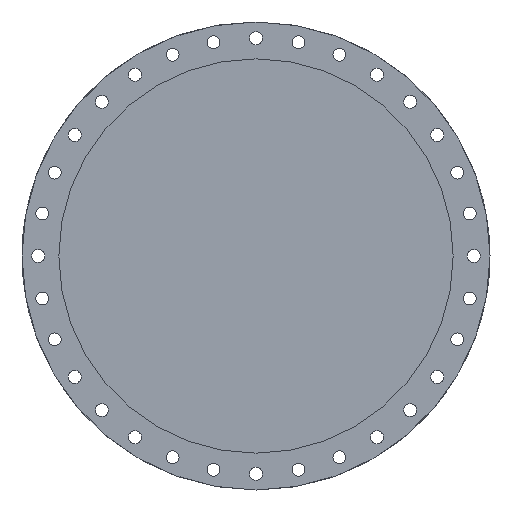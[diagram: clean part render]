
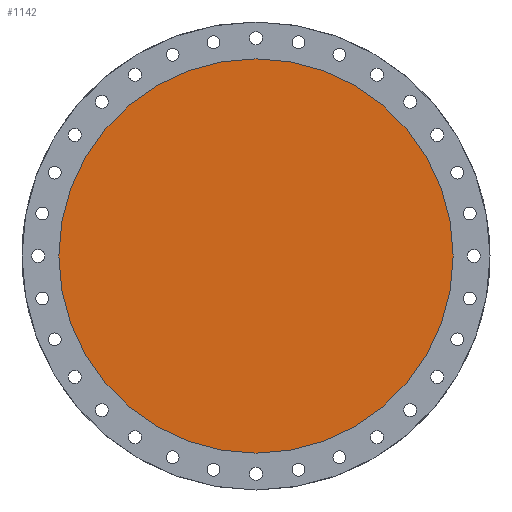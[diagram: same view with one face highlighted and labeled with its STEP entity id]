
A CAD part, front view. The second image highlights one B-rep face of the part: STEP entity #1142.
In plain terms, the highlighted planar face has unit normal (0, -1, 0).
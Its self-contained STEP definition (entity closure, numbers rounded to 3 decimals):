
#156 = DIRECTION ( 'NONE',  ( 0., -1., 0. ) ) ;
#190 = DIRECTION ( 'NONE',  ( 0., 0., 1. ) ) ;
#451 = ORIENTED_EDGE ( 'NONE', *, *, #3096, .T. ) ;
#503 = AXIS2_PLACEMENT_3D ( 'NONE', #1904, #3202, #190 ) ;
#814 = DIRECTION ( 'NONE',  ( 0., 1., 0. ) ) ;
#1115 = ORIENTED_EDGE ( 'NONE', *, *, #2483, .T. ) ;
#1142 = ADVANCED_FACE ( 'NONE', ( #2108 ), #2388, .F. ) ;
#1157 = CARTESIAN_POINT ( 'NONE',  ( 0., 7., -136.1 ) ) ;
#1160 = CIRCLE ( 'NONE', #503, 136.1 ) ;
#1188 = DIRECTION ( 'NONE',  ( 0., 0., 1. ) ) ;
#1205 = EDGE_LOOP ( 'NONE', ( #451, #1115 ) ) ;
#1904 = CARTESIAN_POINT ( 'NONE',  ( 0., 7., 0. ) ) ;
#1974 = AXIS2_PLACEMENT_3D ( 'NONE', #2486, #156, #1188 ) ;
#2108 = FACE_OUTER_BOUND ( 'NONE', #1205, .T. ) ;
#2388 = PLANE ( 'NONE',  #3110 ) ;
#2439 = DIRECTION ( 'NONE',  ( 0., 0., 1. ) ) ;
#2483 = EDGE_CURVE ( 'NONE', #3060, #2707, #1160, .T. ) ;
#2486 = CARTESIAN_POINT ( 'NONE',  ( 0., 7., 0. ) ) ;
#2527 = CIRCLE ( 'NONE', #1974, 136.1 ) ;
#2614 = CARTESIAN_POINT ( 'NONE',  ( 0., 7., 136.1 ) ) ;
#2707 = VERTEX_POINT ( 'NONE', #2614 ) ;
#3060 = VERTEX_POINT ( 'NONE', #1157 ) ;
#3096 = EDGE_CURVE ( 'NONE', #2707, #3060, #2527, .T. ) ;
#3110 = AXIS2_PLACEMENT_3D ( 'NONE', #3139, #814, #2439 ) ;
#3139 = CARTESIAN_POINT ( 'NONE',  ( 0., 7., 136.6 ) ) ;
#3202 = DIRECTION ( 'NONE',  ( 0., -1., 0. ) ) ;
